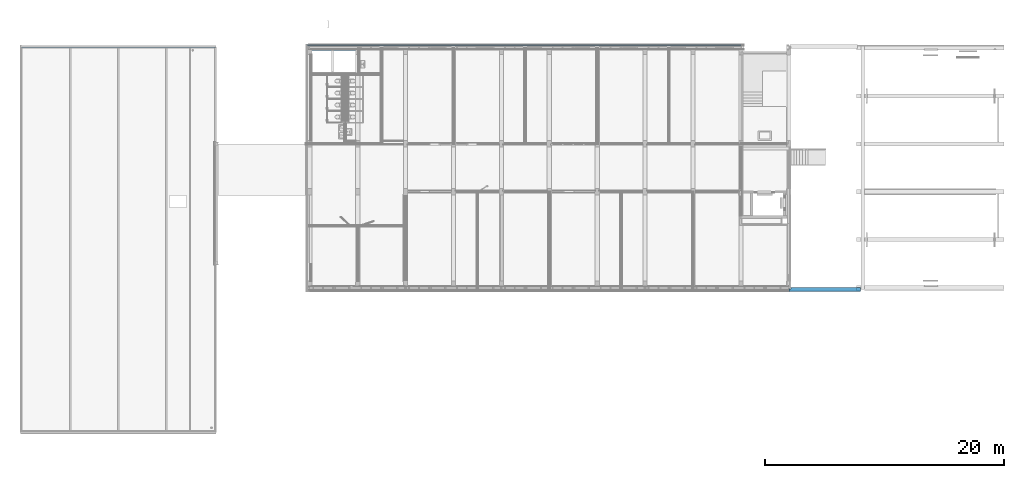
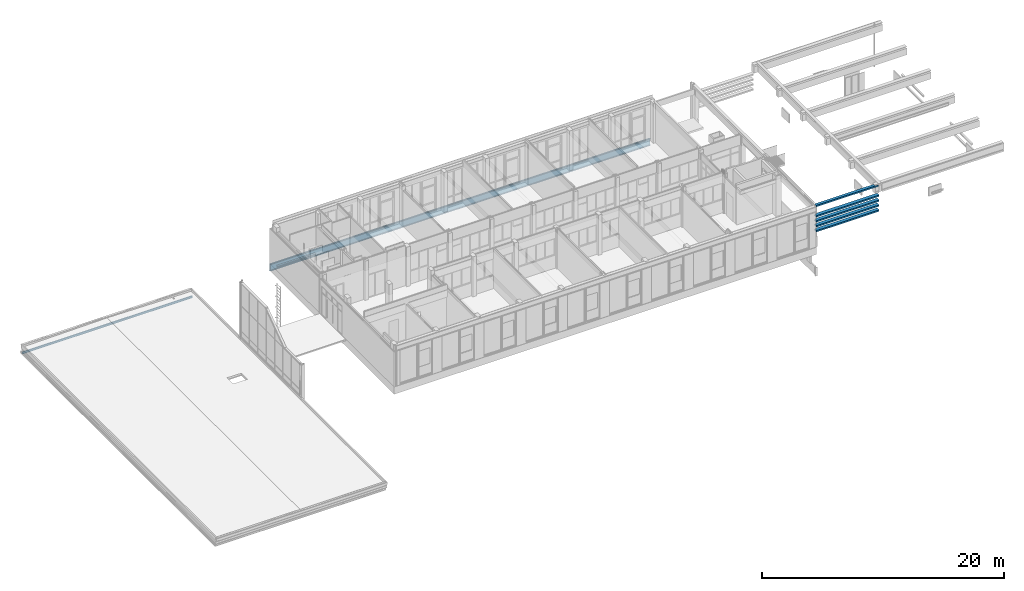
# One storey, part 10 of 54: 8 beams.
"""IFC2X3 building model written with IfcOpenShell, lengths in millimetres."""

from ifc_helpers import new_model, entity, si_unit, converted_unit, derived_unit, money_unit, direction, frame, origin_with_axes, place, context, subcontext, project, spatial, faceted_brep, material, type_object, element, save


model = new_model("IFC2X3")

# Units and contexts
model_context = context("Model", 3, precision=0.01, world=origin_with_axes(), true_north=direction((0.0, 1.0)))
body_context = subcontext(model_context, "Body", "Model", "MODEL_VIEW")
ifc_project = project(units=[si_unit("LENGTHUNIT", "METRE", prefix="MILLI"), si_unit("AREAUNIT", "SQUARE_METRE"), si_unit("VOLUMEUNIT", "CUBIC_METRE"), converted_unit("PLANEANGLEUNIT", "DEGREE", entity("IfcPlaneAngleMeasure", 0.0174532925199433), si_unit("PLANEANGLEUNIT", "RADIAN"), dimensions=[0, 0, 0, 0, 0, 0, 0]), money_unit("EUR"), converted_unit("TIMEUNIT", "Year", entity("IfcTimeMeasure", 31557600.0), si_unit("TIMEUNIT", "SECOND"), dimensions=[0, 0, 1, 0, 0, 0, 0]), si_unit("MASSUNIT", "GRAM", prefix="KILO"), si_unit("THERMODYNAMICTEMPERATUREUNIT", "DEGREE_CELSIUS"), si_unit("LUMINOUSINTENSITYUNIT", "LUMEN"), si_unit("ENERGYUNIT", "JOULE", prefix="MEGA"), derived_unit("THERMALCONDUCTANCEUNIT", [(si_unit("POWERUNIT", "WATT"), 1), (si_unit("LENGTHUNIT", "METRE"), -1), (si_unit("THERMODYNAMICTEMPERATUREUNIT", "KELVIN"), -1)]), derived_unit("SPECIFICHEATCAPACITYUNIT", [(si_unit("ENERGYUNIT", "JOULE"), 1), (si_unit("MASSUNIT", "GRAM", prefix="KILO"), -1), (si_unit("THERMODYNAMICTEMPERATUREUNIT", "KELVIN"), -1)]), derived_unit("MASSDENSITYUNIT", [(si_unit("MASSUNIT", "GRAM", prefix="KILO"), 1), (si_unit("VOLUMEUNIT", "CUBIC_METRE"), -1)])], contexts=[model_context])

# Site, building, storey
site_placement = place(None, origin_with_axes())
site = spatial("IfcSite", under=ifc_project, at=site_placement, Name="<site naam>", CompositionType="ELEMENT")
building_placement = place(site_placement, origin_with_axes())
building = spatial("IfcBuilding", under=site, at=building_placement, Name="<Naam gebouw>", CompositionType="ELEMENT")
storey_placement = place(building_placement, frame((0.0, 0.0, 8500.0), z_axis=(0.0, 0.0, 1.0), x_axis=(1.0, 0.0, 0.0)))
storey = spatial("IfcBuildingStorey", under=building, at=storey_placement, Name="02 2e verdieping", CompositionType="ELEMENT", Elevation=8500.0)

# Beams
ifc_material_1 = material(Name="beton")
beam_type_1 = type_object("IfcBeamType", Name="beton 335 x 150", PredefinedType="BEAM")
beam_1_placement = place(storey_placement, frame((52000.00000000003, -324.0893218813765, 1562.5), z_axis=(0.0, 0.0, 1.0), x_axis=(0.0, -1.0, 0.0)))
element("IfcBeam", 1, at=beam_1_placement, inside=storey, type_object=beam_type_1, material=ifc_material_1, Name="41_Balk_beton", ObjectType="BEAM", context=body_context, shape_type="Brep", body=[
    faceted_brep([(-216.4145882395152, 175.0000000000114, 149.9999999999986), (-216.4145882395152, 65.00004591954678, 149.9999999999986), (-260.0893218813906, 65.00004591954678, 149.9999999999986), (-260.0893218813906, 0.0, 150.0000000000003), (0.0, 0.0, 150.0000000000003), (0.0, 6000.0, 150.0000000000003), (-335.0000000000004, 6000.0, 150.0000000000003), (-334.9999999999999, 65.00000000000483, 150.0000000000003), (-324.0893218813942, 65.00004591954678, 150.0000000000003), (-324.0893218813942, 175.0000000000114, 149.9999999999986), (-216.4145882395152, 65.00004591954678, 0.0), (-216.4145882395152, 175.0000000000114, 0.0), (-260.0893218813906, 65.00004591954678, 0.0), (-260.0893218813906, 0.0, 0.0), (0.0, 0.0, 0.0), (0.0, 6000.0, 0.0), (-335.0000000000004, 6000.0, 0.0), (-334.9999999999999, 65.00000000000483, 0.0), (-324.0893218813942, 65.00004591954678, 0.0), (-324.0893218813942, 175.0000000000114, 0.0)], [[[0, 1, 2, 3, 4, 5, 6, 7, 8, 9]], [[10, 1, 0, 11]], [[10, 12, 2, 1]], [[3, 2, 12, 13]], [[14, 4, 3, 13]], [[5, 4, 14, 15]], [[15, 16, 6, 5]], [[6, 16, 17, 7]], [[17, 18, 8, 7]], [[19, 9, 8, 18]], [[11, 0, 9, 19]], [[11, 19, 18, 17, 16, 15, 14, 13, 12, 10]]]),
])
beam_2_placement = place(storey_placement, frame((52000.00000000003, -324.0893218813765, 3062.5), z_axis=(0.0, 0.0, 1.0), x_axis=(0.0, -1.0, 0.0)))
element("IfcBeam", 2, at=beam_2_placement, inside=storey, type_object=beam_type_1, material=ifc_material_1, Name="41_Balk_beton", ObjectType="BEAM", context=body_context, shape_type="Brep", body=[
    faceted_brep([(-216.4145882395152, 175.0000000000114, 150.0000000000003), (-216.4145882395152, 65.00004591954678, 150.0000000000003), (-260.0893218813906, 65.00004591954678, 150.0000000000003), (-260.0893218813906, 0.0, 150.0000000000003), (0.0, 0.0, 150.0000000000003), (0.0, 6000.0, 150.0000000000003), (-335.0000000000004, 6000.0, 150.0000000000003), (-334.9999999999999, 65.00000000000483, 150.0000000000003), (-324.0893218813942, 65.00004591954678, 150.0000000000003), (-324.0893218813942, 175.0000000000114, 150.0000000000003), (-216.4145882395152, 65.00004591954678, 0.0), (-216.4145882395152, 175.0000000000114, 0.0), (-260.0893218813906, 65.00004591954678, 0.0), (-260.0893218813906, 0.0, 0.0), (0.0, 0.0, 0.0), (0.0, 6000.0, 0.0), (-335.0000000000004, 6000.0, 0.0), (-334.9999999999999, 65.00000000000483, 0.0), (-324.0893218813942, 65.00004591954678, 0.0), (-324.0893218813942, 175.0000000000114, 0.0)], [[[0, 1, 2, 3, 4, 5, 6, 7, 8, 9]], [[10, 1, 0, 11]], [[10, 12, 2, 1]], [[3, 2, 12, 13]], [[14, 4, 3, 13]], [[5, 4, 14, 15]], [[15, 16, 6, 5]], [[6, 16, 17, 7]], [[17, 18, 8, 7]], [[19, 9, 8, 18]], [[11, 0, 9, 19]], [[11, 19, 18, 17, 16, 15, 14, 13, 12, 10]]]),
])
beam_3_placement = place(storey_placement, frame((52000.00000000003, -324.0893218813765, 2062.5), z_axis=(0.0, 0.0, 1.0), x_axis=(0.0, -1.0, 0.0)))
element("IfcBeam", 3, at=beam_3_placement, inside=storey, type_object=beam_type_1, material=ifc_material_1, Name="41_Balk_beton", ObjectType="BEAM", context=body_context, shape_type="Brep", body=[
    faceted_brep([(-216.4145882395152, 175.0000000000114, 150.0000000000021), (-216.4145882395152, 65.00004591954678, 150.0000000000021), (-260.0893218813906, 65.00004591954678, 150.0000000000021), (-260.0893218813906, 0.0, 150.0000000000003), (0.0, 0.0, 150.0000000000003), (0.0, 6000.0, 150.0000000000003), (-335.0000000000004, 6000.0, 150.0000000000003), (-334.9999999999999, 65.00000000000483, 150.0000000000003), (-324.0893218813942, 65.00004591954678, 150.0000000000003), (-324.0893218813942, 175.0000000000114, 150.0000000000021), (-216.4145882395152, 65.00004591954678, 0.0), (-216.4145882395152, 175.0000000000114, 0.0), (-260.0893218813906, 65.00004591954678, 0.0), (-260.0893218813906, 0.0, 0.0), (0.0, 0.0, 0.0), (0.0, 6000.0, 0.0), (-335.0000000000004, 6000.0, 0.0), (-334.9999999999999, 65.00000000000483, 0.0), (-324.0893218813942, 65.00004591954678, 0.0), (-324.0893218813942, 175.0000000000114, 0.0)], [[[0, 1, 2, 3, 4, 5, 6, 7, 8, 9]], [[10, 1, 0, 11]], [[10, 12, 2, 1]], [[3, 2, 12, 13]], [[14, 4, 3, 13]], [[5, 4, 14, 15]], [[15, 16, 6, 5]], [[6, 16, 17, 7]], [[17, 18, 8, 7]], [[19, 9, 8, 18]], [[11, 0, 9, 19]], [[11, 19, 18, 17, 16, 15, 14, 13, 12, 10]]]),
])
beam_4_placement = place(storey_placement, frame((52000.00000000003, -324.0893218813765, 2562.5), z_axis=(0.0, 0.0, 1.0), x_axis=(0.0, -1.0, 0.0)))
element("IfcBeam", 4, at=beam_4_placement, inside=storey, type_object=beam_type_1, material=ifc_material_1, Name="41_Balk_beton", ObjectType="BEAM", context=body_context, shape_type="Brep", body=[
    faceted_brep([(-216.4145882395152, 175.0000000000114, 150.0000000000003), (-216.4145882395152, 65.00004591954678, 150.0000000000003), (-260.0893218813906, 65.00004591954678, 150.0000000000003), (-260.0893218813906, 0.0, 150.0000000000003), (0.0, 0.0, 150.0000000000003), (0.0, 6000.0, 150.0000000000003), (-335.0000000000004, 6000.0, 150.0000000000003), (-334.9999999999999, 65.00000000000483, 150.0000000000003), (-324.0893218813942, 65.00004591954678, 150.0000000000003), (-324.0893218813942, 175.0000000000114, 150.0000000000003), (-216.4145882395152, 65.00004591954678, 0.0), (-216.4145882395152, 175.0000000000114, 0.0), (-260.0893218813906, 65.00004591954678, 0.0), (-260.0893218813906, 0.0, 0.0), (0.0, 0.0, 0.0), (0.0, 6000.0, 0.0), (-335.0000000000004, 6000.0, 0.0), (-334.9999999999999, 65.00000000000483, 0.0), (-324.0893218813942, 65.00004591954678, 0.0), (-324.0893218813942, 175.0000000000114, 0.0)], [[[0, 1, 2, 3, 4, 5, 6, 7, 8, 9]], [[10, 1, 0, 11]], [[10, 12, 2, 1]], [[3, 2, 12, 13]], [[14, 4, 3, 13]], [[5, 4, 14, 15]], [[15, 16, 6, 5]], [[6, 16, 17, 7]], [[17, 18, 8, 7]], [[19, 9, 8, 18]], [[11, 0, 9, 19]], [[11, 19, 18, 17, 16, 15, 14, 13, 12, 10]]]),
])
beam_5_placement = place(storey_placement, frame((52000.00000000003, -324.0893218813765, 4062.5), z_axis=(0.0, 0.0, 1.0), x_axis=(0.0, -1.0, 0.0)))
element("IfcBeam", 5, at=beam_5_placement, inside=storey, type_object=beam_type_1, material=ifc_material_1, Name="41_Balk_beton", ObjectType="BEAM", context=body_context, shape_type="Brep", body=[
    faceted_brep([(-70.00000000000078, 5674.999999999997, 0.0), (-71.08932188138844, 5674.999999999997, 0.0), (-71.08932188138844, 5674.999999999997, 137.5000146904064), (-334.9999999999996, 5674.999999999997, 137.5000146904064), (-334.9999999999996, 5674.999999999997, 150.0000000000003), (-70.00000000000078, 5674.999999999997, 150.0000000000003), (-59.08931796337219, 0.0, 0.0), (-71.08932188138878, 0.0, 0.0), (-70.00000000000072, 6000.0, 0.0), (-59.0893179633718, 6000.0, 0.0), (-71.08932188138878, 0.0, 137.5000146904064), (-324.0892957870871, 175.0000786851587, 137.5000146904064), (-334.9999999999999, 175.0000786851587, 137.5000146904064), (-260.0893218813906, 0.0, 137.5000146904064), (-260.0893218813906, 65.00000000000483, 137.5000146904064), (-324.0892957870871, 65.00000000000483, 137.5000146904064), (-334.9999999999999, 175.0000786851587, 147.5000000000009), (-334.9999999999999, 65.00000000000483, 147.5000000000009), (-334.9999999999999, 65.00000000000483, 150.0000000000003), (-260.0893218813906, 65.00000000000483, 150.0000000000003), (-260.0893218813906, 0.0, 150.0000000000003), (-59.08931796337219, 0.0, 150.0000000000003), (-59.0893179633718, 6000.0, 150.0000000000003), (-70.00000000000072, 6000.0, 150.0000000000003), (-324.0892957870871, 175.0000786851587, 147.5000000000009), (-324.0892957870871, 65.00000000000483, 147.5000000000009)], [[[0, 1, 2, 3, 4, 5]], [[6, 7, 1, 0, 8, 9]], [[10, 2, 1, 7]], [[11, 12, 3, 2, 10, 13, 14, 15]], [[4, 3, 12, 16, 17, 18]], [[4, 18, 19, 20, 21, 22, 23, 5]], [[5, 23, 8, 0]], [[13, 10, 7, 6, 21, 20]], [[9, 8, 23, 22]], [[22, 21, 6, 9]], [[16, 12, 11, 24]], [[19, 14, 13, 20]], [[25, 15, 14, 19, 18, 17]], [[24, 11, 15, 25]], [[16, 24, 25, 17]]]),
])
ifc_material_2 = material(Name="beton_gewapend_prefab")
beam_type_2 = type_object("IfcBeamType", Name="Betonbanden 160 x 760", PredefinedType="BEAM")
beam_6_placement = place(storey_placement, frame((48000.00000000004, 20265.00000000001, 19.99999999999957), z_axis=(0.0, 0.0, 1.0), x_axis=(0.0, 1.0, 0.0)))
element("IfcBeam", 6, at=beam_6_placement, inside=storey, type_object=beam_type_2, material=ifc_material_2, Name="41_Balk_Betonbanden", ObjectType="BEAM", context=body_context, shape_type="Brep", body=[
    faceted_brep([(-100.0000071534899, 0.0, -49.99999999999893), (0.0, 0.0, -49.99999999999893), (0.0, 0.0, -100.0000001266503), (4.298051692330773e-06, 0.0, -690.0000385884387), (-29.99999800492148, 0.0, -690.0000385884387), (-29.99999800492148, 0.0, -660.0000280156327), (-60.00000030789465, 0.0, -660.0000280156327), (-60.00000030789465, 0.0, -759.9999375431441), (4.298051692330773e-06, 0.0, -759.9999375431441), (4.298051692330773e-06, 0.0, -730.0000145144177), (29.99999527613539, 0.0, -730.0000145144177), (29.99999527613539, 0.0, -759.9999375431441), (59.99999757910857, 0.0, -759.9999375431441), (59.99999757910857, 0.0, -30.00000230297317), (-60.00000030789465, 0.0, -30.00000230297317), (-60.00000030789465, 0.0, 0.0), (-100.0000071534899, 0.0, 0.0), (0.0, 36175.00000000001, -49.99999999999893), (-100.0000071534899, 36175.00000000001, -49.99999999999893), (0.0, 36175.00000000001, -100.0000001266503), (4.298051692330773e-06, 36275.00000429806, -100.0000001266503), (4.298051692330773e-06, 36275.00000429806, -690.0000385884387), (-29.99999800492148, 36245.00000199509, -690.0000385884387), (-29.99999800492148, 36245.00000199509, -660.0000280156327), (-60.00000030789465, 36214.99999969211, -660.0000280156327), (-60.00000030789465, 36214.99999969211, -759.9999375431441), (4.298051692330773e-06, 36275.00000429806, -759.9999375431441), (4.298051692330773e-06, 36275.00000429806, -730.0000145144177), (29.99999527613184, 36304.99999527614, -730.0000145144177), (29.99999527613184, 36304.99999527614, -759.9999375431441), (59.99999757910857, 36334.99999757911, -759.9999375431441), (59.99999757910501, 36334.99999757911, -30.00000230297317), (-60.00000030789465, 36214.99999969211, -30.00000230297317), (-60.00000030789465, 36214.99999969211, 0.0), (-100.0000071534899, 36174.99999284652, 0.0), (-100.0000071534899, 36175.00000000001, -100.0000001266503)], [[[0, 1, 2, 3, 4, 5, 6, 7, 8, 9, 10, 11, 12, 13, 14, 15, 16]], [[17, 1, 0, 18]], [[19, 2, 1, 17]], [[3, 2, 19, 20, 21]], [[4, 3, 21, 22]], [[5, 4, 22, 23]], [[6, 5, 23, 24]], [[7, 6, 24, 25]], [[8, 7, 25, 26]], [[9, 8, 26, 27]], [[10, 9, 27, 28]], [[11, 10, 28, 29]], [[12, 11, 29, 30]], [[13, 12, 30, 31]], [[14, 13, 31, 32]], [[15, 14, 32, 33]], [[16, 15, 33, 34]], [[34, 18, 0, 16]], [[18, 35, 19, 17]], [[20, 19, 35]], [[20, 35, 18, 34, 33, 32, 31, 30, 29, 28, 27, 26, 25, 24, 23, 22, 21]]]),
])
ifc_material_3 = material(Name="staal C")
beam_type_3 = type_object("IfcBeamType", Name="Profiel H algemeen 180 x 171", PredefinedType="BEAM")
beam_7_placement = place(storey_placement, frame((12175.00000000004, 19900.00000799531, -235.5000705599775), z_axis=(0.0, 0.0, 1.0), x_axis=(0.0, -1.0, 0.0)))
element("IfcBeam", 7, at=beam_7_placement, inside=storey, type_object=beam_type_3, material=ifc_material_3, Name="28_Balk_Profiel", ObjectType="BEAM", context=body_context, shape_type="Brep", body=[
    faceted_brep([(90.00000799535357, 0.0, -75.9999742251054), (90.00000799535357, 3649.999999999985, -75.9999742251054), (3.000000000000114, 3649.999999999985, -75.9999742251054), (3.000000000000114, 0.0, -75.9999742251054), (90.00000999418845, 0.0, -85.50008467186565), (90.00000999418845, 3649.999999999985, -85.50008467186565), (-90.00000999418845, 3649.999999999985, -85.50008467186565), (-90.00000799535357, 3649.999999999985, -75.9999742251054), (-3.000000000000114, 3649.999999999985, -75.9999742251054), (-3.000000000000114, 3649.999999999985, 75.9999742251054), (-90.00000799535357, 3649.999999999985, 75.9999742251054), (-90.00000999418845, 3649.999999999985, 85.50008467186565), (90.00000999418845, 3649.999999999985, 85.50008467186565), (90.00000799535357, 3649.999999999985, 75.9999742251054), (3.000000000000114, 3649.999999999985, 75.9999742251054), (3.000000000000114, 0.0, 75.9999742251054), (90.00000799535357, 0.0, 75.9999742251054), (90.00000999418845, 0.0, 85.50008467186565), (-90.00000999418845, 0.0, 85.50008467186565), (-90.00000799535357, 0.0, 75.9999742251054), (-3.000000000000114, 0.0, 75.9999742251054), (-3.000000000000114, 0.0, -75.9999742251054), (-90.00000799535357, 0.0, -75.9999742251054), (-90.00000999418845, 0.0, -85.50008467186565)], [[[0, 1, 2, 3]], [[4, 5, 1, 0]], [[2, 1, 5, 6, 7, 8, 9, 10, 11, 12, 13, 14]], [[3, 2, 14, 15]], [[4, 0, 3, 15, 16, 17, 18, 19, 20, 21, 22, 23]], [[23, 6, 5, 4]], [[22, 7, 6, 23]], [[21, 8, 7, 22]], [[20, 9, 8, 21]], [[19, 10, 9, 20]], [[18, 11, 10, 19]], [[17, 12, 11, 18]], [[16, 13, 12, 17]], [[15, 14, 13, 16]]]),
])
beam_type_4 = type_object("IfcBeamType", Name="Profiel IPN algemeen 100 x 200", PredefinedType="BEAM")
beam_8_placement = place(storey_placement, frame((-12145.00097039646, 20048.0002018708, -440.0000433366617), z_axis=(0.0, 0.0, 1.0), x_axis=(0.0, -1.0, 0.0)))
element("IfcBeam", 8, at=beam_8_placement, inside=storey, type_object=beam_type_4, material=ifc_material_3, Name="28_Balk_Profiel", ObjectType="BEAM", context=body_context, shape_type="Brep", body=[
    faceted_brep([(2.800034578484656, 4158.525044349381, -191.5003203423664), (2.800034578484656, 197.5009707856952, -191.5003203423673), (39.00020181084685, 197.5009705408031, -191.5003203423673), (39.00020181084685, 245.0009706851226, -191.5003203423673), (47.0002042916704, 245.0009706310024, -191.5003203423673), (47.0002042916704, 145.0009704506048, -191.5003203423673), (39.00020181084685, 145.0009703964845, -191.5003203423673), (39.00020181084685, 192.5009705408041, -191.5003203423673), (2.800034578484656, 192.5009702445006, -191.5003203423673), (2.800034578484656, 50.00027387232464, -191.5003203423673), (50.00027387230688, 50.00027387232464, -191.5003203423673), (50.00027387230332, 16290.00105463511, -191.5003203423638), (2.800034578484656, 16290.00105463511, -191.5003203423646), (2.800034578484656, 16097.54543865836, -191.5003203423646), (40.00019938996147, 16097.5454384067, -191.5003203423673), (40.00019938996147, 16145.04543855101, -191.5003203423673), (48.00020187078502, 16145.0454384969, -191.5003203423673), (48.00020187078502, 16045.0454383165, -191.5003203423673), (40.00019938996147, 16045.04543826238, -191.5003203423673), (40.00019938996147, 16092.5454384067, -191.5003203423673), (2.800034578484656, 16092.54543811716, -191.5003203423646), (2.800034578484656, 12147.50097064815, -191.5003203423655), (40.00019938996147, 12147.5009703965, -191.5003203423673), (40.00019938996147, 12195.00097054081, -191.5003203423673), (48.00020187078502, 12195.00097048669, -191.5003203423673), (48.00020187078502, 12095.0009703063, -191.5003203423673), (40.00019938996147, 12095.00097025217, -191.5003203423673), (40.00019938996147, 12142.50097039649, -191.5003203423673), (2.800034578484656, 12142.50097010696, -191.5003203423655), (2.800034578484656, 8147.500970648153, -191.5003203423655), (40.00019938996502, 8147.500970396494, -191.5003203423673), (40.00019938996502, 8195.000970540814, -191.5003203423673), (48.00020187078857, 8195.000970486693, -191.5003203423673), (48.00020187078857, 8095.000970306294, -191.5003203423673), (40.00019938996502, 8095.000970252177, -191.5003203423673), (40.00019938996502, 8142.500970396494, -191.5003203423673), (2.800034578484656, 8142.500970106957, -191.5003203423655), (2.800034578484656, 4163.525044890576, -191.5003203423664), (40.00554695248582, 4163.525044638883, -191.5003203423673), (40.00554695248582, 4211.025044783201, -191.5003203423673), (48.00554943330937, 4211.025044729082, -191.5003203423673), (48.00554943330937, 4111.025044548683, -191.5003203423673), (40.00554695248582, 4111.025044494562, -191.5003203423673), (40.00554695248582, 4158.525044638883, -191.5003203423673), (2.800034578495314, 192.5009705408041, -20.00020268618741), (2.800034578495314, 197.5009705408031, -20.00020268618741), (2.800034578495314, 4158.525044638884, -20.00020268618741), (2.800034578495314, 4163.525044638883, -20.00020268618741), (2.800034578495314, 8142.500970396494, -20.00020268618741), (2.800034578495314, 8147.500970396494, -20.00020268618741), (2.800034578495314, 12142.5009703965, -20.00020268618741), (2.800034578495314, 12147.5009703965, -20.00020268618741), (2.800034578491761, 16092.5454384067, -20.00020268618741), (2.800034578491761, 16097.5454384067, -20.00020268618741), (2.800034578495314, 16290.00105463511, -8.500157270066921), (2.800034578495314, 50.00027387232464, -8.500157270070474), (2.800034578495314, 2.800034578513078, -8.500157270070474), (2.800034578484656, 2.800034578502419, -191.5003203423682), (-2.800034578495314, 197.5009705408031, -20.00020268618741), (-2.800034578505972, 197.5009708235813, -191.5003203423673), (-40.99979413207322, 197.5009705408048, -191.5003203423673), (-40.99979413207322, 197.5009705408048, -200.0006782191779), (39.00020181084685, 197.5009705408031, -200.0006782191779), (39.00020181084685, 245.0009706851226, -200.0006782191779), (47.0002042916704, 245.0009706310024, -200.0006782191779), (47.0002042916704, 145.0009704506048, -200.0006782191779), (39.00020181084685, 145.0009703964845, -200.0006782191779), (39.00020181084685, 192.5009705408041, -200.0006782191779), (-40.99979413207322, 192.5009705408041, -200.0006782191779), (-40.99979413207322, 192.5009705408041, -191.5003203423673), (-2.800034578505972, 192.5009702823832, -191.5003203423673), (-2.800034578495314, 192.5009705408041, -20.00020268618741), (-2.800034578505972, 50.00027387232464, -191.5003203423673), (-50.00027387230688, 50.00027387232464, -191.5003203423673), (-50.00044102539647, 50.00044102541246, -200.0006782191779), (50.00044102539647, 50.00044102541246, -200.0006782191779), (50.00044102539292, 16290.00105463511, -200.0006782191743), (-50.00044102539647, 16290.00105463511, -200.0006782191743), (-50.00027387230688, 16290.00105463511, -191.5003203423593), (-2.800034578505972, 16290.00105463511, -191.5003203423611), (-2.800034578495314, 16290.00105463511, -8.500157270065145), (-50.00027387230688, 16290.00105463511, -8.500157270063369), (-50.00044102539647, 16290.00105463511, 0.0), (50.00044102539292, 16290.00105463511, 0.0), (50.00027387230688, 16290.00105463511, -8.500157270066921), (-2.800034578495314, 16097.5454384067, -20.00020268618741), (-2.800034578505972, 16097.54543869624, -191.5003203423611), (-39.9997965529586, 16097.5454384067, -191.5003203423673), (-39.9997965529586, 16097.5454384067, -200.0006782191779), (40.00019938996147, 16097.5454384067, -200.0006782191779), (40.00019938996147, 16145.04543855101, -200.0006782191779), (48.00020187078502, 16145.0454384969, -200.0006782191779), (48.00020187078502, 16045.0454383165, -200.0006782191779), (40.00019938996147, 16045.04543826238, -200.0006782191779), (40.00019938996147, 16092.5454384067, -200.0006782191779), (-39.9997965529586, 16092.5454384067, -200.0006782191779), (-39.9997965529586, 16092.5454384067, -191.5003203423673), (-2.800034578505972, 16092.54543815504, -191.5003203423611), (-2.800034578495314, 16092.5454384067, -20.00020268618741), (-2.800034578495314, 12147.5009703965, -20.00020268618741), (-2.800034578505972, 12147.50097068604, -191.5003203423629), (-39.9997965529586, 12147.5009703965, -191.5003203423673), (-39.9997965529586, 12147.5009703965, -200.0006782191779), (40.00019938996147, 12147.5009703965, -200.0006782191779), (40.00019938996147, 12195.00097054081, -200.0006782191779), (48.00020187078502, 12195.00097048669, -200.0006782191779), (48.00020187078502, 12095.0009703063, -200.0006782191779), (40.00019938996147, 12095.00097025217, -200.0006782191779), (40.00019938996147, 12142.50097039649, -200.0006782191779), (-39.9997965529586, 12142.5009703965, -200.0006782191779), (-39.9997965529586, 12142.5009703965, -191.5003203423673), (-2.800034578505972, 12142.50097014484, -191.5003203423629), (-2.800034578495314, 12142.5009703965, -20.00020268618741), (-2.800034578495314, 8147.500970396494, -20.00020268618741), (-2.800034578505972, 8147.500970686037, -191.5003203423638), (-39.99979655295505, 8147.500970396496, -191.5003203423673), (-39.99979655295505, 8147.500970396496, -200.0006782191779), (40.00019938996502, 8147.500970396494, -200.0006782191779), (40.00019938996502, 8195.000970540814, -200.0006782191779), (48.00020187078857, 8195.000970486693, -200.0006782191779), (48.00020187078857, 8095.000970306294, -200.0006782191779), (40.00019938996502, 8095.000970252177, -200.0006782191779), (40.00019938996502, 8142.500970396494, -200.0006782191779), (-39.99979655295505, 8142.500970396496, -200.0006782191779), (-39.99979655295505, 8142.500970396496, -191.5003203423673), (-2.800034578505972, 8142.500970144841, -191.5003203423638), (-2.800034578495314, 8142.500970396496, -20.00020268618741), (-2.800034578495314, 4163.525044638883, -20.00020268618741), (-2.800034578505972, 4163.525044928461, -191.5003203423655), (-39.99444899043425, 4163.525044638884, -191.5003203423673), (-39.99444899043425, 4163.525044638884, -200.0006782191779), (40.00554695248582, 4163.525044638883, -200.0006782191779), (40.00554695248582, 4211.025044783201, -200.0006782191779), (48.00554943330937, 4211.025044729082, -200.0006782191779), (48.00554943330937, 4111.025044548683, -200.0006782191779), (40.00554695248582, 4111.025044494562, -200.0006782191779), (40.00554695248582, 4158.525044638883, -200.0006782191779), (-39.99444899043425, 4158.525044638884, -200.0006782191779), (-39.99444899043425, 4158.525044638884, -191.5003203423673), (-2.800034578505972, 4158.525044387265, -191.5003203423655), (-2.800034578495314, 4158.525044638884, -20.00020268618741), (50.00027387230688, 50.00027387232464, -8.500157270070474), (-2.800034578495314, 50.00027387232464, -8.500157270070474), (-2.800034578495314, 2.800034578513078, -8.500157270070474), (-2.800034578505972, 2.800034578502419, -191.5003203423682), (-40.99979413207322, 145.0009703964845, -191.5003203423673), (-48.99979661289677, 145.0009704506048, -191.5003203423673), (-48.99979661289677, 245.0009706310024, -191.5003203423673), (-40.99979413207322, 245.0009706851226, -191.5003203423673), (-39.99444899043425, 4111.025044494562, -191.5003203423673), (-47.9944514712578, 4111.025044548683, -191.5003203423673), (-47.9944514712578, 4211.025044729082, -191.5003203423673), (-39.99444899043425, 4211.025044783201, -191.5003203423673), (-39.99979655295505, 8095.000970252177, -191.5003203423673), (-47.9997990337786, 8095.000970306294, -191.5003203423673), (-47.9997990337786, 8195.000970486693, -191.5003203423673), (-39.99979655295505, 8195.000970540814, -191.5003203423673), (-39.9997965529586, 12095.00097025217, -191.5003203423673), (-47.99979903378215, 12095.0009703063, -191.5003203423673), (-47.99979903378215, 12195.00097048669, -191.5003203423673), (-39.9997965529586, 12195.00097054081, -191.5003203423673), (-39.9997965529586, 16045.04543826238, -191.5003203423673), (-47.99979903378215, 16045.0454383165, -191.5003203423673), (-47.99979903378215, 16145.0454384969, -191.5003203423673), (-39.9997965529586, 16145.04543855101, -191.5003203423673), (-40.99979413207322, 245.0009706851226, -200.0006782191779), (-39.9997965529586, 16145.04543855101, -200.0006782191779), (-47.99979903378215, 16145.0454384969, -200.0006782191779), (-47.99979903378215, 16045.0454383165, -200.0006782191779), (-39.9997965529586, 16045.04543826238, -200.0006782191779), (-39.9997965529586, 12195.00097054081, -200.0006782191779), (-47.99979903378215, 12195.00097048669, -200.0006782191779), (-47.99979903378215, 12095.0009703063, -200.0006782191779), (-39.9997965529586, 12095.00097025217, -200.0006782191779), (-39.99979655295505, 8195.000970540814, -200.0006782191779), (-47.9997990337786, 8195.000970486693, -200.0006782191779), (-47.9997990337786, 8095.000970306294, -200.0006782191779), (-39.99979655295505, 8095.000970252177, -200.0006782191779), (-39.99444899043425, 4211.025044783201, -200.0006782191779), (-47.9944514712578, 4211.025044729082, -200.0006782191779), (-47.9944514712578, 4111.025044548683, -200.0006782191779), (-39.99444899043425, 4111.025044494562, -200.0006782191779), (-48.99979661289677, 245.0009706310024, -200.0006782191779), (-48.99979661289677, 145.0009704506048, -200.0006782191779), (-40.99979413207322, 145.0009703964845, -200.0006782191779), (-50.00027387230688, 50.00027387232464, -8.500157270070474), (-50.00044102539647, 50.00044102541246, 0.0), (50.00044102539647, 50.00044102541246, 0.0)], [[[0, 1, 2, 3, 4, 5, 6, 7, 8, 9, 10, 11, 12, 13, 14, 15, 16, 17, 18, 19, 20, 21, 22, 23, 24, 25, 26, 27, 28, 29, 30, 31, 32, 33, 34, 35, 36, 37, 38, 39, 40, 41, 42, 43]], [[44, 45, 1, 0, 46, 47, 37, 36, 48, 49, 29, 28, 50, 51, 21, 20, 52, 53, 13, 12, 54, 55, 56, 57, 9, 8]], [[58, 59, 60, 61, 62, 2, 1, 45]], [[63, 3, 2, 62]], [[64, 4, 3, 63]], [[65, 5, 4, 64]], [[66, 6, 5, 65]], [[67, 7, 6, 66]], [[68, 69, 70, 71, 44, 8, 7, 67]], [[10, 9, 72, 73, 74, 75]], [[76, 11, 10, 75]], [[12, 11, 76, 77, 78, 79, 80, 81, 82, 83, 84, 54]], [[85, 86, 87, 88, 89, 14, 13, 53]], [[90, 15, 14, 89]], [[91, 16, 15, 90]], [[92, 17, 16, 91]], [[93, 18, 17, 92]], [[94, 19, 18, 93]], [[95, 96, 97, 98, 52, 20, 19, 94]], [[99, 100, 101, 102, 103, 22, 21, 51]], [[104, 23, 22, 103]], [[105, 24, 23, 104]], [[106, 25, 24, 105]], [[107, 26, 25, 106]], [[108, 27, 26, 107]], [[109, 110, 111, 112, 50, 28, 27, 108]], [[113, 114, 115, 116, 117, 30, 29, 49]], [[118, 31, 30, 117]], [[119, 32, 31, 118]], [[120, 33, 32, 119]], [[121, 34, 33, 120]], [[122, 35, 34, 121]], [[123, 124, 125, 126, 48, 36, 35, 122]], [[127, 128, 129, 130, 131, 38, 37, 47]], [[132, 39, 38, 131]], [[133, 40, 39, 132]], [[134, 41, 40, 133]], [[135, 42, 41, 134]], [[136, 43, 42, 135]], [[137, 138, 139, 140, 46, 0, 43, 136]], [[44, 71, 58, 45]], [[46, 140, 127, 47]], [[48, 126, 113, 49]], [[50, 112, 99, 51]], [[52, 98, 85, 53]], [[54, 84, 141, 55]], [[56, 55, 142, 143]], [[57, 56, 143, 144]], [[9, 57, 144, 72]], [[58, 71, 70, 72, 144, 143, 142, 80, 79, 86, 85, 98, 97, 100, 99, 112, 111, 114, 113, 126, 125, 128, 127, 140, 139, 59]], [[69, 145, 146, 147, 148, 60, 59, 139, 138, 149, 150, 151, 152, 129, 128, 125, 124, 153, 154, 155, 156, 115, 114, 111, 110, 157, 158, 159, 160, 101, 100, 97, 96, 161, 162, 163, 164, 87, 86, 79, 78, 73, 72, 70]], [[61, 60, 148, 165]], [[77, 76, 75, 74], [89, 88, 166, 167, 168, 169, 95, 94, 93, 92, 91, 90], [103, 102, 170, 171, 172, 173, 109, 108, 107, 106, 105, 104], [117, 116, 174, 175, 176, 177, 123, 122, 121, 120, 119, 118], [131, 130, 178, 179, 180, 181, 137, 136, 135, 134, 133, 132], [62, 61, 165, 182, 183, 184, 68, 67, 66, 65, 64, 63]], [[184, 145, 69, 68]], [[78, 77, 74, 73]], [[81, 80, 142, 185]], [[82, 81, 185, 186]], [[83, 82, 186, 187]], [[84, 83, 187, 141]], [[88, 87, 164, 166]], [[169, 161, 96, 95]], [[102, 101, 160, 170]], [[173, 157, 110, 109]], [[116, 115, 156, 174]], [[177, 153, 124, 123]], [[130, 129, 152, 178]], [[181, 149, 138, 137]], [[55, 141, 187, 186, 185, 142]], [[183, 146, 145, 184]], [[182, 147, 146, 183]], [[165, 148, 147, 182]], [[180, 150, 149, 181]], [[179, 151, 150, 180]], [[178, 152, 151, 179]], [[176, 154, 153, 177]], [[175, 155, 154, 176]], [[174, 156, 155, 175]], [[172, 158, 157, 173]], [[171, 159, 158, 172]], [[170, 160, 159, 171]], [[168, 162, 161, 169]], [[167, 163, 162, 168]], [[166, 164, 163, 167]]]),
])

save(model, "model.ifc")
